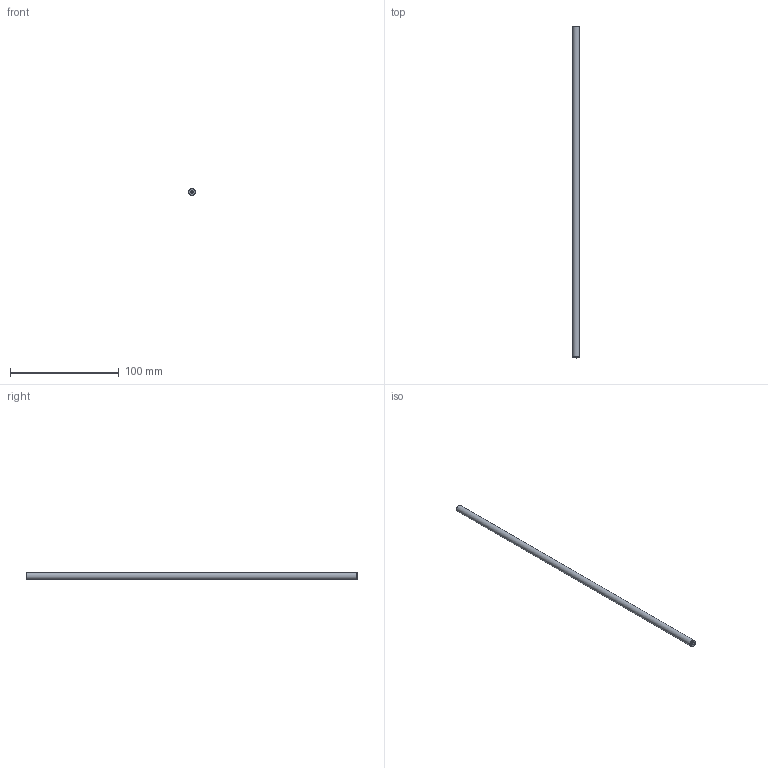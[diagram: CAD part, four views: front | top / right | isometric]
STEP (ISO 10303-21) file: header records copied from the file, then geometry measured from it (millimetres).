
FILE_DESCRIPTION(/* description */ (''),/* implementation_level */ '2;1');
FILE_NAME(/* name */ 'Y:\2_OpticalHard\08_Cage Systems\C30ｼﾘｰｽﾞ\C30-RO-6(UU)\20180724_中間ﾌｧｲﾙ\C30-RO-6-304.8UU.stp',/* time_stamp */ '2018-07-24T18:15:29+09:00',/* author */ ('e.nonaka'),/* organization */ (''),/* preprocessor_version */ 'ST-DEVELOPER v17',/* originating_system */ 'Autodesk Inventor 2018',/* authorisation */ '');
FILE_SCHEMA (('AUTOMOTIVE_DESIGN { 1 0 10303 214 3 1 1 }'));
Length unit declared in the file: millimetre
Products named in the file (1): C30RO6**UU-M03-18001  A
Bounding box: 6 x 304.8 x 6 mm (x, y, z)
Volume: 8557.2 mm3; surface area: 5907.2 mm2
Topology: 1 solids, 1 shells, 10 faces, 28 edges, 20 vertices
Faces by surface type: cone 4, cylinder 4, plane 2
Full cylindrical faces by diameter (mm): 2.3 x2, 6 x2
Entity records: 371 total; most frequent: DIRECTION 66, CARTESIAN_POINT 57, ORIENTED_EDGE 52, AXIS2_PLACEMENT_3D 29, EDGE_CURVE 26, VERTEX_POINT 20, CIRCLE 18, EDGE_LOOP 12
